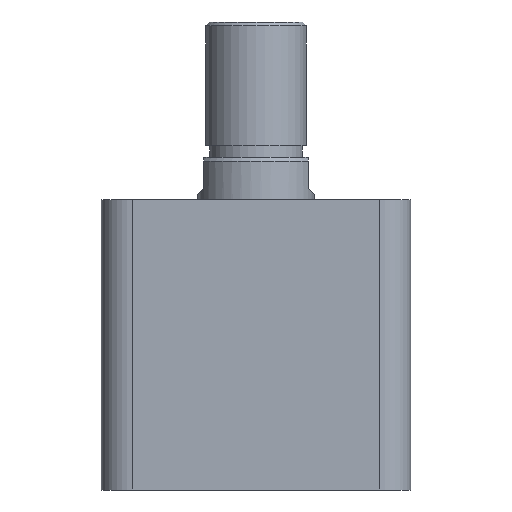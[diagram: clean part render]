
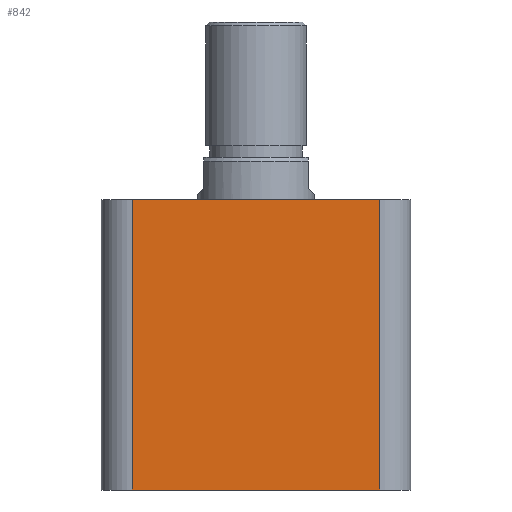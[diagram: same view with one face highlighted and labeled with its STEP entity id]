
A CAD part, front view. The second image highlights one B-rep face of the part: STEP entity #842.
In plain terms, the highlighted planar face has unit normal (0, -1, 0).
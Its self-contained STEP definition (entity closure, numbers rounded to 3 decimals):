
#88 = ORIENTED_EDGE ( 'NONE', *, *, #1040, .F. ) ;
#89 = ORIENTED_EDGE ( 'NONE', *, *, #1041, .T. ) ;
#90 = ORIENTED_EDGE ( 'NONE', *, *, #1042, .T. ) ;
#91 = ORIENTED_EDGE ( 'NONE', *, *, #1043, .T. ) ;
#285 = VERTEX_POINT ( 'NONE', #1912 ) ;
#352 = VERTEX_POINT ( 'NONE', #1817 ) ;
#353 = VERTEX_POINT ( 'NONE', #1813 ) ;
#354 = VERTEX_POINT ( 'NONE', #1897 ) ;
#842 = ADVANCED_FACE ( 'NONE', ( #1194 ), #1773, .F. ) ;
#970 = AXIS2_PLACEMENT_3D ( 'NONE', #1780, #1763, #1760 ) ;
#1040 = EDGE_CURVE ( 'NONE', #285, #354, #1119, .T. ) ;
#1041 = EDGE_CURVE ( 'NONE', #285, #353, #1233, .T. ) ;
#1042 = EDGE_CURVE ( 'NONE', #353, #352, #1358, .T. ) ;
#1043 = EDGE_CURVE ( 'NONE', #352, #354, #1150, .T. ) ;
#1119 = LINE ( 'NONE', #2619, #1385 ) ;
#1148 = VECTOR ( 'NONE', #2591, 1000. ) ;
#1150 = LINE ( 'NONE', #2592, #1148 ) ;
#1162 = VECTOR ( 'NONE', #2596, 1000. ) ;
#1194 = FACE_OUTER_BOUND ( 'NONE', #1463, .T. ) ;
#1233 = LINE ( 'NONE', #2597, #1162 ) ;
#1340 = VECTOR ( 'NONE', #2593, 1000. ) ;
#1358 = LINE ( 'NONE', #2602, #1340 ) ;
#1385 = VECTOR ( 'NONE', #2618, 1000. ) ;
#1463 = EDGE_LOOP ( 'NONE', ( #88, #89, #90, #91 ) ) ;
#1760 = DIRECTION ( 'NONE',  ( 0., 0., 1. ) ) ;
#1763 = DIRECTION ( 'NONE',  ( 0., 1., 0. ) ) ;
#1773 = PLANE ( 'NONE',  #970 ) ;
#1780 = CARTESIAN_POINT ( 'NONE',  ( -40., -40., 75. ) ) ;
#1813 = CARTESIAN_POINT ( 'NONE',  ( -32., -40., 0. ) ) ;
#1817 = CARTESIAN_POINT ( 'NONE',  ( 32., -40., 0. ) ) ;
#1897 = CARTESIAN_POINT ( 'NONE',  ( 32., -40., 75. ) ) ;
#1912 = CARTESIAN_POINT ( 'NONE',  ( -32., -40., 75. ) ) ;
#2591 = DIRECTION ( 'NONE',  ( 0., 0., 1. ) ) ;
#2592 = CARTESIAN_POINT ( 'NONE',  ( 32., -40., 75. ) ) ;
#2593 = DIRECTION ( 'NONE',  ( 1., 0., 0. ) ) ;
#2596 = DIRECTION ( 'NONE',  ( 0., 0., -1. ) ) ;
#2597 = CARTESIAN_POINT ( 'NONE',  ( -32., -40., 75. ) ) ;
#2602 = CARTESIAN_POINT ( 'NONE',  ( -40., -40., 0. ) ) ;
#2618 = DIRECTION ( 'NONE',  ( 1., 0., 0. ) ) ;
#2619 = CARTESIAN_POINT ( 'NONE',  ( -40., -40., 75. ) ) ;
